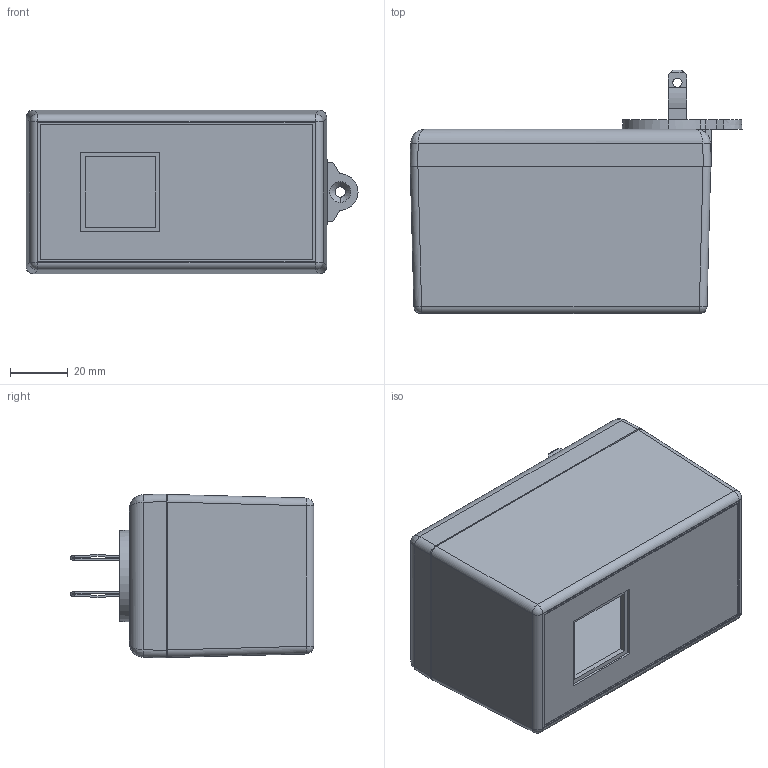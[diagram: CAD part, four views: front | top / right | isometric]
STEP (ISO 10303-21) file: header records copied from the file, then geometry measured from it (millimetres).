
FILE_DESCRIPTION (( 'STEP AP214' ), '1' );
FILE_NAME ('PM2425T12XWT.STEP', '2010-07-15T14:20:24', ( '' ), ( '' ), 'SwSTEP 2.0', 'SolidWorks 2010', '' );
FILE_SCHEMA (( 'AUTOMOTIVE_DESIGN' ));
Length unit declared in the file: inch
Products named in the file (8): TS-2420B AND PM2420_PM2420T1; B2405 ASS''Y_B24052XWT; MPB2405_MPB24052WT; BLADES; WELD DISC-PS-BK; SCREWS-HL1-BR; B2405-PCB; PM2425T12XWT
Assembly tree (11 placements, depth 3):
  PM2425T12XWT
    B2405-PCB
    TS-2420B AND PM2420_PM2420T1
    SCREWS-HL1-BR  x4
    B2405 ASS''Y_B24052XWT
      WELD DISC-PS-BK
      BLADES  x2
      MPB2405_MPB24052WT
Bounding box: 115.34 x 84.55 x 56.95 mm (x, y, z)
Volume: 87937.3 mm3; surface area: 81608.2 mm2
Topology: 10 solids, 10 shells, 897 faces, 2498 edges, 1630 vertices
Faces by surface type: cylinder 488, plane 283, cone 82, bspline 28, sphere 12, torus 4
Entity records: 18749 total; most frequent: CARTESIAN_POINT 6197, ORIENTED_EDGE 2710, DIRECTION 2417, EDGE_CURVE 1355, VERTEX_POINT 880, AXIS2_PLACEMENT_3D 847, LINE 723, VECTOR 723
